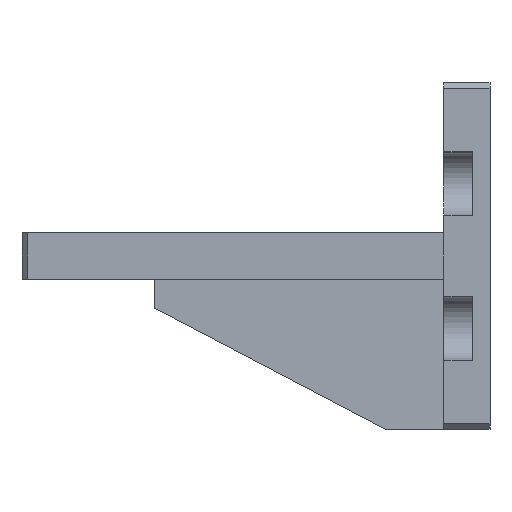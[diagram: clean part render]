
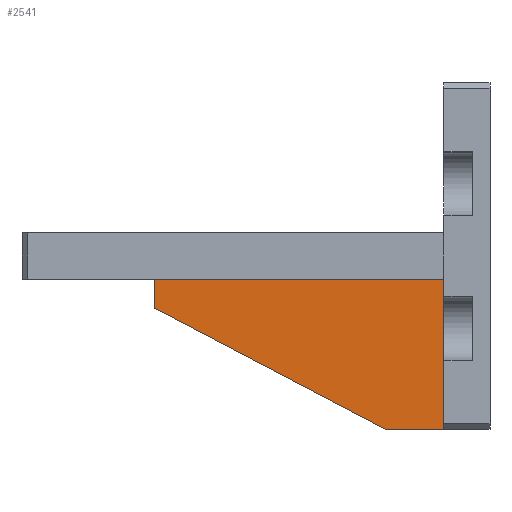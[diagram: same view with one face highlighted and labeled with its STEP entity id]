
A CAD part, left-side view. The second image highlights one B-rep face of the part: STEP entity #2541.
In plain terms, the highlighted planar face has unit normal (-1, 0, 0).
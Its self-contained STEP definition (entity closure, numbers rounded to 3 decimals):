
#7 = LINE ( 'NONE', #3832, #2945 ) ;
#366 = CARTESIAN_POINT ( 'NONE',  ( -20.289, 45.957, 56. ) ) ;
#436 = PLANE ( 'NONE',  #4599 ) ;
#842 = ORIENTED_EDGE ( 'NONE', *, *, #7614, .F. ) ;
#893 = DIRECTION ( 'NONE',  ( 0., 1., 0. ) ) ;
#1051 = DIRECTION ( 'NONE',  ( 0., 0.885, 0.465 ) ) ;
#1081 = VERTEX_POINT ( 'NONE', #2217 ) ;
#1454 = EDGE_CURVE ( 'NONE', #1496, #7122, #3856, .T. ) ;
#1496 = VERTEX_POINT ( 'NONE', #6902 ) ;
#1602 = CARTESIAN_POINT ( 'NONE',  ( -20.289, -4.043, 43. ) ) ;
#1623 = DIRECTION ( 'NONE',  ( 0., -1., 0. ) ) ;
#1727 = VECTOR ( 'NONE', #1051, 1000. ) ;
#1776 = CARTESIAN_POINT ( 'NONE',  ( -20.289, 45.957, 51. ) ) ;
#2217 = CARTESIAN_POINT ( 'NONE',  ( -20.289, 5.957, 30. ) ) ;
#2261 = LINE ( 'NONE', #6814, #5202 ) ;
#2302 = ORIENTED_EDGE ( 'NONE', *, *, #3868, .F. ) ;
#2493 = EDGE_CURVE ( 'NONE', #1496, #7483, #3192, .T. ) ;
#2541 = ADVANCED_FACE ( 'NONE', ( #3328 ), #436, .F. ) ;
#2629 = CARTESIAN_POINT ( 'NONE',  ( -20.289, 20.957, 56. ) ) ;
#2637 = DIRECTION ( 'NONE',  ( 0., 0., 1. ) ) ;
#2677 = VECTOR ( 'NONE', #6195, 1000. ) ;
#2945 = VECTOR ( 'NONE', #893, 1000. ) ;
#3066 = ORIENTED_EDGE ( 'NONE', *, *, #2493, .F. ) ;
#3084 = EDGE_CURVE ( 'NONE', #7483, #1081, #7, .T. ) ;
#3192 = LINE ( 'NONE', #1602, #3443 ) ;
#3328 = FACE_OUTER_BOUND ( 'NONE', #4373, .T. ) ;
#3443 = VECTOR ( 'NONE', #5277, 1000. ) ;
#3832 = CARTESIAN_POINT ( 'NONE',  ( -20.289, 20.957, 30. ) ) ;
#3856 = LINE ( 'NONE', #2629, #2677 ) ;
#3868 = EDGE_CURVE ( 'NONE', #1081, #6577, #3932, .T. ) ;
#3932 = LINE ( 'NONE', #6362, #1727 ) ;
#3997 = ORIENTED_EDGE ( 'NONE', *, *, #1454, .T. ) ;
#4373 = EDGE_LOOP ( 'NONE', ( #842, #2302, #5432, #3066, #3997 ) ) ;
#4486 = CARTESIAN_POINT ( 'NONE',  ( -20.289, 45.957, 56. ) ) ;
#4599 = AXIS2_PLACEMENT_3D ( 'NONE', #366, #7447, #1623 ) ;
#5202 = VECTOR ( 'NONE', #2637, 1000. ) ;
#5277 = DIRECTION ( 'NONE',  ( 0., 0., -1. ) ) ;
#5432 = ORIENTED_EDGE ( 'NONE', *, *, #3084, .F. ) ;
#5988 = CARTESIAN_POINT ( 'NONE',  ( -20.289, -4.043, 30. ) ) ;
#6195 = DIRECTION ( 'NONE',  ( 0., 1., 0. ) ) ;
#6362 = CARTESIAN_POINT ( 'NONE',  ( -20.289, 45.957, 51. ) ) ;
#6577 = VERTEX_POINT ( 'NONE', #1776 ) ;
#6814 = CARTESIAN_POINT ( 'NONE',  ( -20.289, 45.957, 43. ) ) ;
#6902 = CARTESIAN_POINT ( 'NONE',  ( -20.289, -4.043, 56. ) ) ;
#7122 = VERTEX_POINT ( 'NONE', #4486 ) ;
#7447 = DIRECTION ( 'NONE',  ( 1., 0., 0. ) ) ;
#7483 = VERTEX_POINT ( 'NONE', #5988 ) ;
#7614 = EDGE_CURVE ( 'NONE', #6577, #7122, #2261, .T. ) ;
